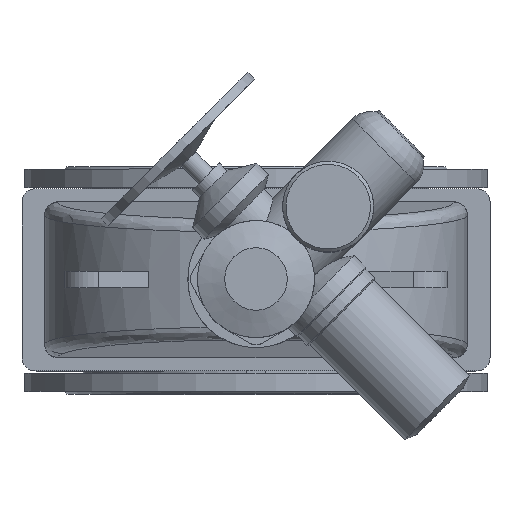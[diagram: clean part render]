
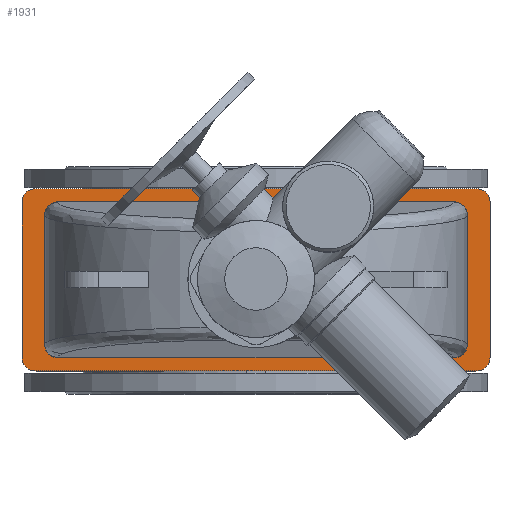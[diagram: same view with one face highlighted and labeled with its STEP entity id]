
A CAD part, top view. The second image highlights one B-rep face of the part: STEP entity #1931.
In plain terms, the highlighted planar face has unit normal (0, 0, 1).
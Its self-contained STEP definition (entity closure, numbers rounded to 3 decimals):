
#1931=ADVANCED_FACE('',(#6577,#6579),#6581,.T.);
#6577=FACE_BOUND('',#6578,.T.);
#6578=EDGE_LOOP('',(#9404,#9405,#9406,#9407,#9408,#9409,#9410,#9411));
#6579=FACE_BOUND('',#6580,.T.);
#6580=EDGE_LOOP('',(#9412,#9413,#9414,#9415,#9416,#9417,#9418,#9419));
#6581=PLANE('',#6582);
#6582=AXIS2_PLACEMENT_3D('',#6583,#6584,#6585);
#6583=CARTESIAN_POINT('',(0.,0.,566.));
#6584=DIRECTION('',(0.,-0.,1.));
#6585=DIRECTION('',(0.,1.,0.));
#9404=ORIENTED_EDGE('',*,*,#10512,.F.);
#9405=ORIENTED_EDGE('',*,*,#10525,.T.);
#9406=ORIENTED_EDGE('',*,*,#10524,.F.);
#9407=ORIENTED_EDGE('',*,*,#10522,.T.);
#9408=ORIENTED_EDGE('',*,*,#10520,.F.);
#9409=ORIENTED_EDGE('',*,*,#10518,.T.);
#9410=ORIENTED_EDGE('',*,*,#10516,.F.);
#9411=ORIENTED_EDGE('',*,*,#10513,.T.);
#9412=ORIENTED_EDGE('',*,*,#10526,.F.);
#9413=ORIENTED_EDGE('',*,*,#10527,.F.);
#9414=ORIENTED_EDGE('',*,*,#10528,.F.);
#9415=ORIENTED_EDGE('',*,*,#10529,.F.);
#9416=ORIENTED_EDGE('',*,*,#10530,.F.);
#9417=ORIENTED_EDGE('',*,*,#10531,.F.);
#9418=ORIENTED_EDGE('',*,*,#10532,.F.);
#9419=ORIENTED_EDGE('',*,*,#10533,.F.);
#10512=EDGE_CURVE('',#11657,#11655,#11659,.F.);
#10513=EDGE_CURVE('',#11660,#11655,#11661,.T.);
#10516=EDGE_CURVE('',#11660,#11663,#11665,.F.);
#10518=EDGE_CURVE('',#11666,#11663,#11668,.T.);
#10520=EDGE_CURVE('',#11666,#11669,#11671,.F.);
#10522=EDGE_CURVE('',#11672,#11669,#11674,.T.);
#10524=EDGE_CURVE('',#11672,#11675,#11677,.F.);
#10525=EDGE_CURVE('',#11657,#11675,#11678,.T.);
#10526=EDGE_CURVE('',#11679,#11680,#11681,.F.);
#10527=EDGE_CURVE('',#11682,#11679,#11683,.T.);
#10528=EDGE_CURVE('',#11684,#11682,#11685,.T.);
#10529=EDGE_CURVE('',#11686,#11684,#11687,.T.);
#10530=EDGE_CURVE('',#11688,#11686,#11689,.F.);
#10531=EDGE_CURVE('',#11690,#11688,#11691,.T.);
#10532=EDGE_CURVE('',#11692,#11690,#11693,.T.);
#10533=EDGE_CURVE('',#11680,#11692,#11694,.T.);
#11655=VERTEX_POINT('',#15047);
#11657=VERTEX_POINT('',#15051);
#11659=CIRCLE('',#15055,20.);
#11660=VERTEX_POINT('',#15059);
#11661=LINE('',#15060,#15061);
#11663=VERTEX_POINT('',#15066);
#11665=CIRCLE('',#15070,20.);
#11666=VERTEX_POINT('',#15074);
#11668=LINE('',#15078,#15079);
#11669=VERTEX_POINT('',#15081);
#11671=CIRCLE('',#15085,20.);
#11672=VERTEX_POINT('',#15089);
#11674=LINE('',#15093,#15094);
#11675=VERTEX_POINT('',#15096);
#11677=CIRCLE('',#15100,20.);
#11678=LINE('',#15104,#15105);
#11679=VERTEX_POINT('',#15107);
#11680=VERTEX_POINT('',#15108);
#11681=(BOUNDED_CURVE()B_SPLINE_CURVE(3,
(#15109,#15110,#15111,#15112),
.UNSPECIFIED.,.F.,.F.)B_SPLINE_CURVE_WITH_KNOTS((4,4),
(0.,1.),
.UNSPECIFIED.)CURVE()GEOMETRIC_REPRESENTATION_ITEM()RATIONAL_B_SPLINE_CURVE((1.,
0.805,0.805,1.))REPRESENTATION_ITEM(''));
#11682=VERTEX_POINT('',#15113);
#11683=LINE('',#15114,#15115);
#11684=VERTEX_POINT('',#15117);
#11685=(BOUNDED_CURVE()B_SPLINE_CURVE(3,
(#15118,#15119,#15120,#15121),
.UNSPECIFIED.,.F.,.F.)B_SPLINE_CURVE_WITH_KNOTS((4,4),
(0.,1.),
.UNSPECIFIED.)CURVE()GEOMETRIC_REPRESENTATION_ITEM()RATIONAL_B_SPLINE_CURVE((1.,
0.805,0.805,1.))REPRESENTATION_ITEM(''));
#11686=VERTEX_POINT('',#15122);
#11687=LINE('',#15123,#15124);
#11688=VERTEX_POINT('',#15126);
#11689=(BOUNDED_CURVE()B_SPLINE_CURVE(3,
(#15127,#15128,#15129,#15130),
.UNSPECIFIED.,.F.,.F.)B_SPLINE_CURVE_WITH_KNOTS((4,4),
(0.,1.),
.UNSPECIFIED.)CURVE()GEOMETRIC_REPRESENTATION_ITEM()RATIONAL_B_SPLINE_CURVE((1.,
0.805,0.805,1.))REPRESENTATION_ITEM(''));
#11690=VERTEX_POINT('',#15131);
#11691=LINE('',#15132,#15133);
#11692=VERTEX_POINT('',#15135);
#11693=(BOUNDED_CURVE()B_SPLINE_CURVE(3,
(#15136,#15137,#15138,#15139),
.UNSPECIFIED.,.F.,.F.)B_SPLINE_CURVE_WITH_KNOTS((4,4),
(0.,1.),
.UNSPECIFIED.)CURVE()GEOMETRIC_REPRESENTATION_ITEM()RATIONAL_B_SPLINE_CURVE((1.,
0.805,0.805,1.))REPRESENTATION_ITEM(''));
#11694=LINE('',#15140,#15141);
#15047=CARTESIAN_POINT('',(-360.,-120.,566.));
#15051=CARTESIAN_POINT('',(-340.,-140.,566.));
#15055=AXIS2_PLACEMENT_3D('',#15056,#15057,#15058);
#15056=CARTESIAN_POINT('',(-340.,-120.,566.));
#15057=DIRECTION('',(0.,-0.,1.));
#15058=DIRECTION('',(-1.,0.,0.));
#15059=CARTESIAN_POINT('',(-360.,120.,566.));
#15060=CARTESIAN_POINT('',(-360.,120.,566.));
#15061=VECTOR('',#15062,1.);
#15062=DIRECTION('',(0.,-1.,0.));
#15066=CARTESIAN_POINT('',(-340.,140.,566.));
#15070=AXIS2_PLACEMENT_3D('',#15071,#15072,#15073);
#15071=CARTESIAN_POINT('',(-340.,120.,566.));
#15072=DIRECTION('',(0.,-0.,1.));
#15073=DIRECTION('',(0.,1.,0.));
#15074=CARTESIAN_POINT('',(340.,140.,566.));
#15078=CARTESIAN_POINT('',(340.,140.,566.));
#15079=VECTOR('',#15080,1.);
#15080=DIRECTION('',(-1.,0.,0.));
#15081=CARTESIAN_POINT('',(360.,120.,566.));
#15085=AXIS2_PLACEMENT_3D('',#15086,#15087,#15088);
#15086=CARTESIAN_POINT('',(340.,120.,566.));
#15087=DIRECTION('',(0.,-0.,1.));
#15088=DIRECTION('',(1.,0.,0.));
#15089=CARTESIAN_POINT('',(360.,-120.,566.));
#15093=CARTESIAN_POINT('',(360.,-120.,566.));
#15094=VECTOR('',#15095,1.);
#15095=DIRECTION('',(0.,1.,0.));
#15096=CARTESIAN_POINT('',(340.,-140.,566.));
#15100=AXIS2_PLACEMENT_3D('',#15101,#15102,#15103);
#15101=CARTESIAN_POINT('',(340.,-120.,566.));
#15102=DIRECTION('',(0.,-0.,1.));
#15103=DIRECTION('',(0.,-1.,0.));
#15104=CARTESIAN_POINT('',(-340.,-140.,566.));
#15105=VECTOR('',#15106,1.);
#15106=DIRECTION('',(1.,0.,0.));
#15107=CARTESIAN_POINT('',(305.,-120.,566.));
#15108=CARTESIAN_POINT('',(325.,-99.924,566.));
#15109=CARTESIAN_POINT('',(325.,-99.924,566.));
#15110=CARTESIAN_POINT('',(325.,-111.684,566.));
#15111=CARTESIAN_POINT('',(316.716,-120.,566.));
#15112=CARTESIAN_POINT('',(305.,-120.,566.));
#15113=CARTESIAN_POINT('',(-305.,-120.,566.));
#15114=CARTESIAN_POINT('',(-305.,-120.,566.));
#15115=VECTOR('',#15116,1.);
#15116=DIRECTION('',(1.,0.,0.));
#15117=CARTESIAN_POINT('',(-325.,-99.924,566.));
#15118=CARTESIAN_POINT('',(-325.,-99.924,566.));
#15119=CARTESIAN_POINT('',(-325.,-111.684,566.));
#15120=CARTESIAN_POINT('',(-316.716,-120.,566.));
#15121=CARTESIAN_POINT('',(-305.,-120.,566.));
#15122=CARTESIAN_POINT('',(-325.,99.924,566.));
#15123=CARTESIAN_POINT('',(-325.,99.924,566.));
#15124=VECTOR('',#15125,1.);
#15125=DIRECTION('',(0.,-1.,0.));
#15126=CARTESIAN_POINT('',(-305.,120.,566.));
#15127=CARTESIAN_POINT('',(-325.,99.924,566.));
#15128=CARTESIAN_POINT('',(-325.,111.684,566.));
#15129=CARTESIAN_POINT('',(-316.716,120.,566.));
#15130=CARTESIAN_POINT('',(-305.,120.,566.));
#15131=CARTESIAN_POINT('',(305.,120.,566.));
#15132=CARTESIAN_POINT('',(305.,120.,566.));
#15133=VECTOR('',#15134,1.);
#15134=DIRECTION('',(-1.,0.,0.));
#15135=CARTESIAN_POINT('',(325.,99.924,566.));
#15136=CARTESIAN_POINT('',(325.,99.924,566.));
#15137=CARTESIAN_POINT('',(325.,111.684,566.));
#15138=CARTESIAN_POINT('',(316.716,120.,566.));
#15139=CARTESIAN_POINT('',(305.,120.,566.));
#15140=CARTESIAN_POINT('',(325.,-99.924,566.));
#15141=VECTOR('',#15142,1.);
#15142=DIRECTION('',(0.,1.,0.));
